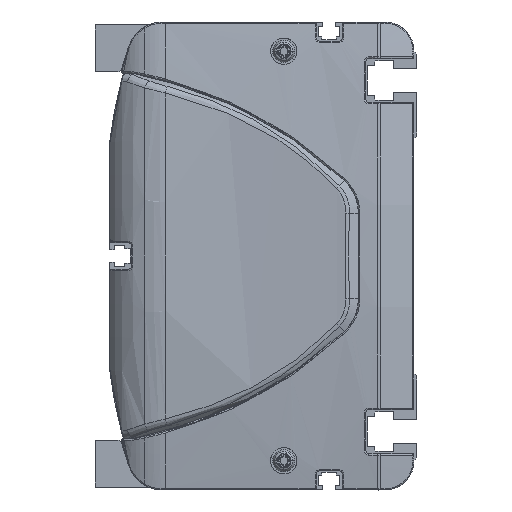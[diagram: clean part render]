
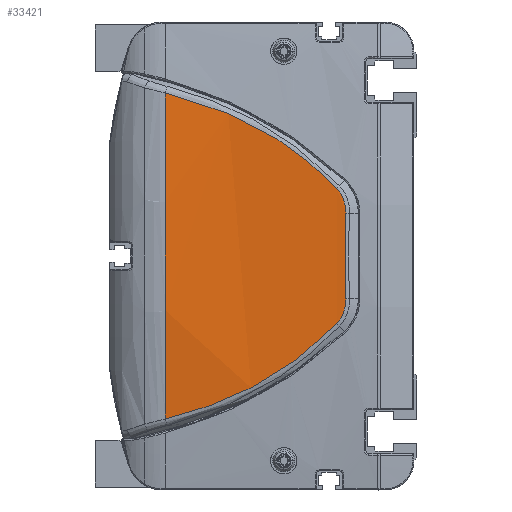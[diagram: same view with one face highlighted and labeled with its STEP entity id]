
A CAD part, left-side view. The second image highlights one B-rep face of the part: STEP entity #33421.
In plain terms, the highlighted cylindrical face has radius 600 mm (diameter 1200 mm), a partial arc.
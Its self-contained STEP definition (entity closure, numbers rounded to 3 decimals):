
#11174=CARTESIAN_POINT('',(-12.406,86.,
55.736));
#11175=CARTESIAN_POINT('',(-12.529,80.495,
54.41));
#11176=CARTESIAN_POINT('',(-12.828,69.636,
51.114));
#11177=CARTESIAN_POINT('',(-13.389,54.079,
44.179));
#11178=CARTESIAN_POINT('',(-14.01,39.709,
34.979));
#11179=CARTESIAN_POINT('',(-14.395,31.353,
27.243));
#11180=CARTESIAN_POINT('',(-14.555,27.451,
23.113));
#11182=CARTESIAN_POINT('',(-14.555,27.451,
23.113));
#11183=CARTESIAN_POINT('',(-14.598,26.394,
21.994));
#11184=CARTESIAN_POINT('',(-14.695,24.746,
19.315));
#11185=CARTESIAN_POINT('',(-14.783,24.276,
16.208));
#11186=CARTESIAN_POINT('',(-14.821,24.351,
14.67));
#11188=CARTESIAN_POINT('',(-14.821,24.351,
14.67));
#11189=CARTESIAN_POINT('',(-14.9,24.51,
11.413));
#11190=CARTESIAN_POINT('',(-15.007,24.721,
4.895));
#11191=CARTESIAN_POINT('',(-15.007,24.721,
-4.895));
#11192=CARTESIAN_POINT('',(-14.9,24.51,
-11.413));
#11193=CARTESIAN_POINT('',(-14.821,24.351,
-14.67));
#11195=CARTESIAN_POINT('',(-14.821,24.351,
-14.67));
#11196=CARTESIAN_POINT('',(-14.783,24.276,
-16.208));
#11197=CARTESIAN_POINT('',(-14.695,24.746,
-19.315));
#11198=CARTESIAN_POINT('',(-14.598,26.394,
-21.995));
#11199=CARTESIAN_POINT('',(-14.555,27.451,
-23.113));
#11201=CARTESIAN_POINT('',(-14.555,27.451,
-23.113));
#11202=CARTESIAN_POINT('',(-14.395,31.353,
-27.243));
#11203=CARTESIAN_POINT('',(-14.01,39.709,
-34.979));
#11204=CARTESIAN_POINT('',(-13.389,54.079,
-44.179));
#11205=CARTESIAN_POINT('',(-12.828,69.636,
-51.114));
#11206=CARTESIAN_POINT('',(-12.529,80.495,
-54.41));
#11207=CARTESIAN_POINT('',(-12.406,86.,
-55.736));
#11209=CARTESIAN_POINT('',(585.,86.,0.));
#11210=DIRECTION('',(0.,1.,0.));
#11211=DIRECTION('',(-0.996,0.,-0.093));
#11212=AXIS2_PLACEMENT_3D('',#11209,#11210,#11211);
#11225=CARTESIAN_POINT('',(-12.406,86.,
55.736));
#14124=VERTEX_POINT('',#11225);
#14125=CARTESIAN_POINT('',(-12.406,86.,
-55.736));
#14126=VERTEX_POINT('',#14125);
#14176=VERTEX_POINT('',#11180);
#14177=VERTEX_POINT('',#11186);
#14178=VERTEX_POINT('',#11193);
#14179=VERTEX_POINT('',#11199);
#33403=CARTESIAN_POINT('',(585.,87.45,0.));
#33404=DIRECTION('',(0.,-1.,0.));
#33405=DIRECTION('',(0.,0.,-1.));
#33406=AXIS2_PLACEMENT_3D('',#33403,#33404,#33405);
#33407=CYLINDRICAL_SURFACE('',#33406,600.);
#33409=ORIENTED_EDGE('',*,*,#33408,.T.);
#33411=ORIENTED_EDGE('',*,*,#33410,.T.);
#33412=ORIENTED_EDGE('',*,*,#33393,.T.);
#33414=ORIENTED_EDGE('',*,*,#33413,.T.);
#33416=ORIENTED_EDGE('',*,*,#33415,.T.);
#33418=ORIENTED_EDGE('',*,*,#33417,.T.);
#33419=EDGE_LOOP('',(#33409,#33411,#33412,#33414,#33416,#33418));
#33420=FACE_OUTER_BOUND('',#33419,.F.);
#33421=ADVANCED_FACE('',(#33420),#33407,.T.);
#11181=B_SPLINE_CURVE_WITH_KNOTS('',3,(#11174,#11175,#11176,#11177,#11178,
#11179,#11180),.UNSPECIFIED.,.F.,.F.,(4,1,1,1,4),(0.,0.25,0.5,0.75,
1.),.UNSPECIFIED.);
#11187=B_SPLINE_CURVE_WITH_KNOTS('',3,(#11182,#11183,#11184,#11185,#11186),
.UNSPECIFIED.,.F.,.F.,(4,1,4),(0.,0.5,1.),.UNSPECIFIED.);
#11194=B_SPLINE_CURVE_WITH_KNOTS('',3,(#11188,#11189,#11190,#11191,#11192,
#11193),.UNSPECIFIED.,.F.,.F.,(4,1,1,4),(0.,0.333,
0.667,1.),.UNSPECIFIED.);
#11200=B_SPLINE_CURVE_WITH_KNOTS('',3,(#11195,#11196,#11197,#11198,#11199),
.UNSPECIFIED.,.F.,.F.,(4,1,4),(0.,0.5,1.),.UNSPECIFIED.);
#11208=B_SPLINE_CURVE_WITH_KNOTS('',3,(#11201,#11202,#11203,#11204,#11205,
#11206,#11207),.UNSPECIFIED.,.F.,.F.,(4,1,1,1,4),(0.,0.25,0.5,0.75,
1.),.UNSPECIFIED.);
#11213=CIRCLE('',#11212,600.);
#33393=EDGE_CURVE('',#14177,#14178,#11194,.T.);
#33408=EDGE_CURVE('',#14124,#14176,#11181,.T.);
#33410=EDGE_CURVE('',#14176,#14177,#11187,.T.);
#33413=EDGE_CURVE('',#14178,#14179,#11200,.T.);
#33415=EDGE_CURVE('',#14179,#14126,#11208,.T.);
#33417=EDGE_CURVE('',#14126,#14124,#11213,.T.);
